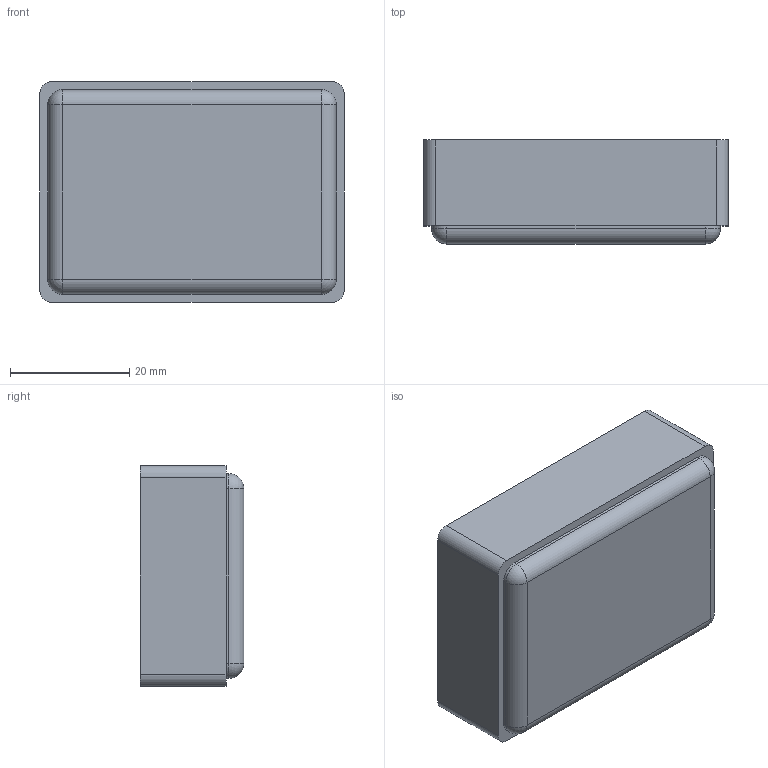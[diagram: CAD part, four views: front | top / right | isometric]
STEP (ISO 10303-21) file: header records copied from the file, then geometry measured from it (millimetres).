
FILE_DESCRIPTION (( 'STEP AP214' ), '1' );
FILE_NAME ('Cuerpo PP85D.STEP', '2016-09-22T16:46:48', ( 'aaa' ), ( '' ), 'SwSTEP 2.0', 'SolidWorks 2013', '' );
FILE_SCHEMA (( 'AUTOMOTIVE_DESIGN' ));
Length unit declared in the file: millimetre
Products named in the file (1): Cuerpo PP85D
Bounding box: 51 x 17.4 x 37 mm (x, y, z)
Volume: 9314.3 mm3; surface area: 10096.2 mm2
Topology: 1 solids, 1 shells, 66 faces, 148 edges, 92 vertices
Faces by surface type: cylinder 36, plane 26, sphere 4
Entity records: 1858 total; most frequent: DIRECTION 350, CARTESIAN_POINT 303, ORIENTED_EDGE 288, EDGE_CURVE 144, AXIS2_PLACEMENT_3D 139, VERTEX_POINT 92, EDGE_LOOP 78, VECTOR 72
